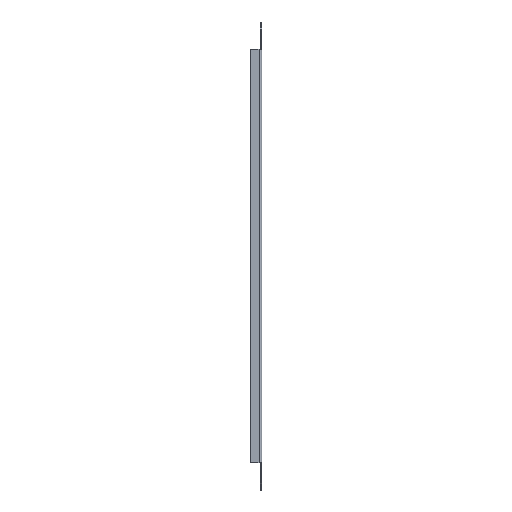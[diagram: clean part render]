
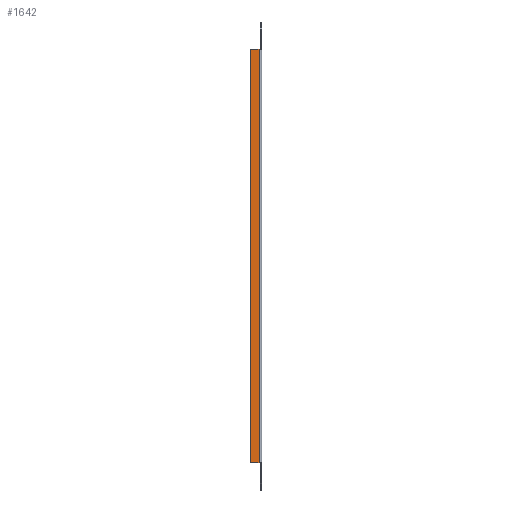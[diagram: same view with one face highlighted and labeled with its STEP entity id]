
A CAD part, left-side view. The second image highlights one B-rep face of the part: STEP entity #1642.
In plain terms, the highlighted planar face has unit normal (-1, 0, 0).
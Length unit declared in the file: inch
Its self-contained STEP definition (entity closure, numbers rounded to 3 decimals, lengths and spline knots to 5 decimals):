
#9 = EDGE_CURVE ( 'NONE', #2360, #2595, #2909, .T. ) ;
#66 = EDGE_CURVE ( 'NONE', #2595, #2485, #2828, .T. ) ;
#78 = EDGE_CURVE ( 'NONE', #2360, #2065, #2798, .T. ) ;
#220 = AXIS2_PLACEMENT_3D ( 'NONE', #1224, #1194, #1197 ) ;
#269 = EDGE_CURVE ( 'NONE', #2485, #2065, #3106, .T. ) ;
#751 = CARTESIAN_POINT ( 'NONE',  ( -9.1, 13.334, -0.653 ) ) ;
#935 = CARTESIAN_POINT ( 'NONE',  ( -9.1, -13.334, -0.653 ) ) ;
#1061 = CARTESIAN_POINT ( 'NONE',  ( -9.1, 13.334, -0.08 ) ) ;
#1194 = DIRECTION ( 'NONE',  ( 1., 0., 0. ) ) ;
#1197 = DIRECTION ( 'NONE',  ( 0., 0., -1. ) ) ;
#1204 = PLANE ( 'NONE',  #220 ) ;
#1224 = CARTESIAN_POINT ( 'NONE',  ( -9.1, -13.334, -0.653 ) ) ;
#1357 = CARTESIAN_POINT ( 'NONE',  ( -9.1, -13.334, -0.08 ) ) ;
#1642 = ADVANCED_FACE ( 'NONE', ( #1835 ), #1204, .F. ) ;
#1835 = FACE_OUTER_BOUND ( 'NONE', #3025, .T. ) ;
#2065 = VERTEX_POINT ( 'NONE', #1357 ) ;
#2132 = DIRECTION ( 'NONE',  ( 0., -1., 0. ) ) ;
#2183 = CARTESIAN_POINT ( 'NONE',  ( -9.1, -13.334, -0.08 ) ) ;
#2224 = CARTESIAN_POINT ( 'NONE',  ( -9.1, -13.334, -0.653 ) ) ;
#2350 = CARTESIAN_POINT ( 'NONE',  ( -9.1, -13.334, -0.653 ) ) ;
#2360 = VERTEX_POINT ( 'NONE', #1061 ) ;
#2485 = VERTEX_POINT ( 'NONE', #935 ) ;
#2534 = DIRECTION ( 'NONE',  ( 0., 0., 1. ) ) ;
#2595 = VERTEX_POINT ( 'NONE', #751 ) ;
#2665 = CARTESIAN_POINT ( 'NONE',  ( -9.1, 13.334, -0.653 ) ) ;
#2668 = DIRECTION ( 'NONE',  ( 0., 0., -1. ) ) ;
#2784 = DIRECTION ( 'NONE',  ( 0., -1., 0. ) ) ;
#2798 = LINE ( 'NONE', #2183, #2801 ) ;
#2801 = VECTOR ( 'NONE', #2784, 39.37008 ) ;
#2828 = LINE ( 'NONE', #2350, #3041 ) ;
#2909 = LINE ( 'NONE', #2665, #2933 ) ;
#2933 = VECTOR ( 'NONE', #2668, 39.37008 ) ;
#3025 = EDGE_LOOP ( 'NONE', ( #4168, #4180, #4176, #3993 ) ) ;
#3041 = VECTOR ( 'NONE', #2132, 39.37008 ) ;
#3068 = VECTOR ( 'NONE', #2534, 39.37008 ) ;
#3106 = LINE ( 'NONE', #2224, #3068 ) ;
#3993 = ORIENTED_EDGE ( 'NONE', *, *, #269, .T. ) ;
#4168 = ORIENTED_EDGE ( 'NONE', *, *, #78, .F. ) ;
#4176 = ORIENTED_EDGE ( 'NONE', *, *, #66, .T. ) ;
#4180 = ORIENTED_EDGE ( 'NONE', *, *, #9, .T. ) ;
